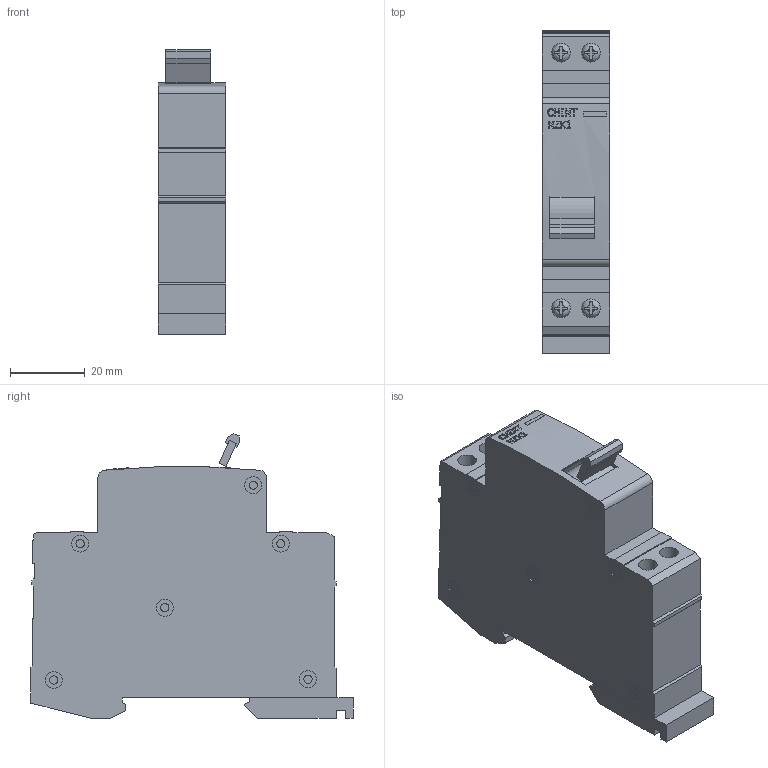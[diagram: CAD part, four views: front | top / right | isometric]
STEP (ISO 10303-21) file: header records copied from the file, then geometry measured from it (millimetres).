
FILE_DESCRIPTION(/* description */ (''),/* implementation_level */ '2;1');
FILE_NAME(/* name */ 'D:\CHINT\NZK1\Переключатель NZK1 1P 32A (CHINT).stp',/* time_stamp */ '2017-09-30T15:58:49+04:00',/* author */ ('RSagdiev'),/* organization */ (''),/* preprocessor_version */ 'ST-DEVELOPER v16.5',/* originating_system */ 'Autodesk Inventor 2017',/* authorisation */ '');
FILE_SCHEMA (('AUTOMOTIVE_DESIGN { 1 0 10303 214 3 1 1 }'));
Length unit declared in the file: millimetre
Products named in the file (1): \X2\041F043504400435043A043B044E0447043004420435043B044C
\X0\ NZK1 1P 32A (CHINT)
Bounding box: 18 x 86 x 76.01 mm (x, y, z)
Volume: 81553.8 mm3; surface area: 18590.6 mm2
Topology: 9 solids, 9 shells, 343 faces, 864 edges, 574 vertices
Faces by surface type: plane 273, cylinder 49, bspline 21
Full cylindrical faces by diameter (mm): 2.111 x2, 2.171 x2, 2.212 x6, 4.524 x12, 5 x8, 13.756 x1
Entity records: 10585 total; most frequent: CARTESIAN_POINT 2301, DIRECTION 1681, ORIENTED_EDGE 1666, EDGE_CURVE 833, VERTEX_POINT 574, AXIS2_PLACEMENT_3D 571, LINE 539, VECTOR 539
